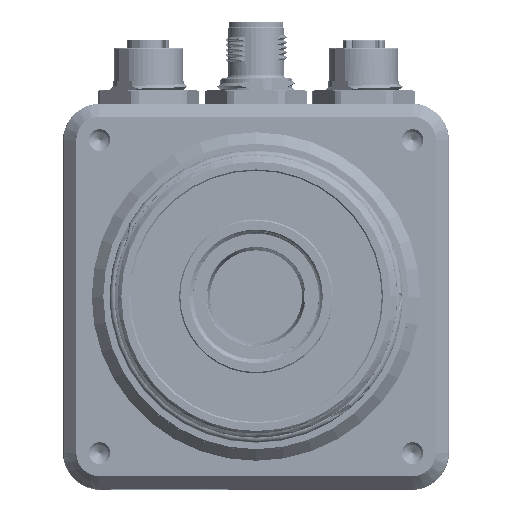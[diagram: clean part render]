
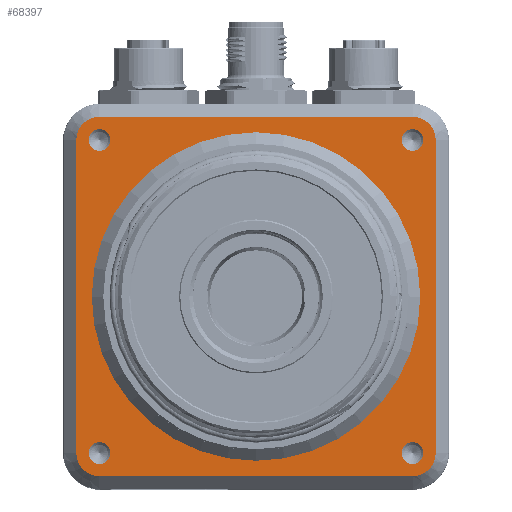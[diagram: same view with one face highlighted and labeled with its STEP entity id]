
A CAD part, top view. The second image highlights one B-rep face of the part: STEP entity #68397.
In plain terms, the highlighted planar face has unit normal (0, 0, 1).
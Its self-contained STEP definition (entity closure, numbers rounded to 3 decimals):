
#13517=CARTESIAN_POINT('',(-30.5,-30.5,27.));
#13518=DIRECTION('',(0.,0.,1.));
#13519=DIRECTION('',(-1.,0.,0.));
#13520=AXIS2_PLACEMENT_3D('',#13517,#13518,#13519);
#13522=CARTESIAN_POINT('',(-30.5,30.5,27.));
#13523=DIRECTION('',(0.,0.,1.));
#13524=DIRECTION('',(0.,1.,0.));
#13525=AXIS2_PLACEMENT_3D('',#13522,#13523,#13524);
#13527=DIRECTION('',(-1.,0.,0.));
#13528=VECTOR('',#13527,61.);
#13529=CARTESIAN_POINT('',(30.5,35.,27.));
#13530=LINE('',#13529,#13528);
#13531=CARTESIAN_POINT('',(30.5,30.5,27.));
#13532=DIRECTION('',(0.,0.,1.));
#13533=DIRECTION('',(1.,0.,0.));
#13534=AXIS2_PLACEMENT_3D('',#13531,#13532,#13533);
#13536=DIRECTION('',(0.,1.,0.));
#13537=VECTOR('',#13536,61.);
#13538=CARTESIAN_POINT('',(35.,-30.5,27.));
#13539=LINE('',#13538,#13537);
#13540=CARTESIAN_POINT('',(30.5,-30.5,27.));
#13541=DIRECTION('',(0.,0.,1.));
#13542=DIRECTION('',(0.,-1.,0.));
#13543=AXIS2_PLACEMENT_3D('',#13540,#13541,#13542);
#13545=CARTESIAN_POINT('',(-30.5,30.5,27.));
#13546=DIRECTION('',(0.,0.,-1.));
#13547=DIRECTION('',(-1.,0.,0.));
#13548=AXIS2_PLACEMENT_3D('',#13545,#13546,#13547);
#13550=CARTESIAN_POINT('',(-30.5,30.5,27.));
#13551=DIRECTION('',(0.,0.,-1.));
#13552=DIRECTION('',(1.,0.,0.));
#13553=AXIS2_PLACEMENT_3D('',#13550,#13551,#13552);
#13555=CARTESIAN_POINT('',(30.5,30.5,27.));
#13556=DIRECTION('',(0.,0.,-1.));
#13557=DIRECTION('',(-1.,0.,0.));
#13558=AXIS2_PLACEMENT_3D('',#13555,#13556,#13557);
#13560=CARTESIAN_POINT('',(30.5,30.5,27.));
#13561=DIRECTION('',(0.,0.,-1.));
#13562=DIRECTION('',(1.,0.,0.));
#13563=AXIS2_PLACEMENT_3D('',#13560,#13561,#13562);
#13565=CARTESIAN_POINT('',(-30.5,-30.5,27.));
#13566=DIRECTION('',(0.,0.,-1.));
#13567=DIRECTION('',(-1.,0.,0.));
#13568=AXIS2_PLACEMENT_3D('',#13565,#13566,#13567);
#13570=CARTESIAN_POINT('',(-30.5,-30.5,27.));
#13571=DIRECTION('',(0.,0.,-1.));
#13572=DIRECTION('',(1.,0.,0.));
#13573=AXIS2_PLACEMENT_3D('',#13570,#13571,#13572);
#13575=CARTESIAN_POINT('',(30.5,-30.5,27.));
#13576=DIRECTION('',(0.,0.,-1.));
#13577=DIRECTION('',(-1.,0.,0.));
#13578=AXIS2_PLACEMENT_3D('',#13575,#13576,#13577);
#13580=CARTESIAN_POINT('',(30.5,-30.5,27.));
#13581=DIRECTION('',(0.,0.,-1.));
#13582=DIRECTION('',(1.,0.,0.));
#13583=AXIS2_PLACEMENT_3D('',#13580,#13581,#13582);
#13585=CARTESIAN_POINT('',(0.,0.,27.));
#13586=DIRECTION('',(0.,0.,-1.));
#13587=DIRECTION('',(-1.,0.,0.));
#13588=AXIS2_PLACEMENT_3D('',#13585,#13586,#13587);
#13590=CARTESIAN_POINT('',(0.,0.,27.));
#13591=DIRECTION('',(0.,0.,-1.));
#13592=DIRECTION('',(1.,0.,0.));
#13593=AXIS2_PLACEMENT_3D('',#13590,#13591,#13592);
#13604=DIRECTION('',(0.,1.,0.));
#13605=VECTOR('',#13604,61.);
#13606=CARTESIAN_POINT('',(-35.,-30.5,27.));
#13607=LINE('',#13606,#13605);
#13620=DIRECTION('',(-1.,0.,0.));
#13621=VECTOR('',#13620,61.);
#13622=CARTESIAN_POINT('',(30.5,-35.,27.));
#13623=LINE('',#13622,#13621);
#41373=CARTESIAN_POINT('',(30.5,-35.,27.));
#41375=VERTEX_POINT('',#41373);
#41380=CARTESIAN_POINT('',(35.,-30.5,27.));
#41381=CARTESIAN_POINT('',(35.,30.5,27.));
#41382=VERTEX_POINT('',#41380);
#41383=VERTEX_POINT('',#41381);
#41452=CARTESIAN_POINT('',(-28.375,-30.5,27.));
#41453=CARTESIAN_POINT('',(-32.625,-30.5,27.));
#41454=VERTEX_POINT('',#41452);
#41455=VERTEX_POINT('',#41453);
#41508=CARTESIAN_POINT('',(-35.,-30.5,27.));
#41509=CARTESIAN_POINT('',(-35.,30.5,27.));
#41510=VERTEX_POINT('',#41508);
#41511=VERTEX_POINT('',#41509);
#41583=CARTESIAN_POINT('',(32.625,30.5,27.));
#41585=VERTEX_POINT('',#41583);
#41722=CARTESIAN_POINT('',(28.375,-30.5,27.));
#41723=CARTESIAN_POINT('',(32.625,-30.5,27.));
#41724=VERTEX_POINT('',#41722);
#41725=VERTEX_POINT('',#41723);
#41828=CARTESIAN_POINT('',(-30.5,-35.,27.));
#41830=VERTEX_POINT('',#41828);
#41886=CARTESIAN_POINT('',(-30.5,35.,27.));
#41887=VERTEX_POINT('',#41886);
#42013=CARTESIAN_POINT('',(32.,0.,27.));
#42014=VERTEX_POINT('',#42013);
#42058=CARTESIAN_POINT('',(-32.625,30.5,27.));
#42059=VERTEX_POINT('',#42058);
#42070=CARTESIAN_POINT('',(30.5,35.,27.));
#42071=VERTEX_POINT('',#42070);
#42094=CARTESIAN_POINT('',(-28.375,30.5,27.));
#42095=VERTEX_POINT('',#42094);
#42114=CARTESIAN_POINT('',(28.375,30.5,27.));
#42115=VERTEX_POINT('',#42114);
#42131=CARTESIAN_POINT('',(-32.,0.,27.));
#42132=VERTEX_POINT('',#42131);
#68349=CARTESIAN_POINT('',(30.5,30.5,27.));
#68350=DIRECTION('',(0.,0.,1.));
#68351=DIRECTION('',(0.707,-0.707,0.));
#68352=AXIS2_PLACEMENT_3D('',#68349,#68350,#68351);
#68353=PLANE('',#68352);
#68355=ORIENTED_EDGE('',*,*,#68354,.F.);
#68357=ORIENTED_EDGE('',*,*,#68356,.T.);
#68358=ORIENTED_EDGE('',*,*,#61078,.F.);
#68359=ORIENTED_EDGE('',*,*,#61093,.F.);
#68360=ORIENTED_EDGE('',*,*,#61110,.F.);
#68361=ORIENTED_EDGE('',*,*,#68344,.F.);
#68362=ORIENTED_EDGE('',*,*,#68331,.F.);
#68364=ORIENTED_EDGE('',*,*,#68363,.T.);
#68365=EDGE_LOOP('',(#68355,#68357,#68358,#68359,#68360,#68361,#68362,#68364));
#68366=FACE_OUTER_BOUND('',#68365,.F.);
#68368=ORIENTED_EDGE('',*,*,#68367,.F.);
#68370=ORIENTED_EDGE('',*,*,#68369,.F.);
#68371=EDGE_LOOP('',(#68368,#68370));
#68372=FACE_BOUND('',#68371,.F.);
#68374=ORIENTED_EDGE('',*,*,#68373,.F.);
#68376=ORIENTED_EDGE('',*,*,#68375,.F.);
#68377=EDGE_LOOP('',(#68374,#68376));
#68378=FACE_BOUND('',#68377,.F.);
#68380=ORIENTED_EDGE('',*,*,#68379,.F.);
#68382=ORIENTED_EDGE('',*,*,#68381,.F.);
#68383=EDGE_LOOP('',(#68380,#68382));
#68384=FACE_BOUND('',#68383,.F.);
#68386=ORIENTED_EDGE('',*,*,#68385,.F.);
#68388=ORIENTED_EDGE('',*,*,#68387,.F.);
#68389=EDGE_LOOP('',(#68386,#68388));
#68390=FACE_BOUND('',#68389,.F.);
#68392=ORIENTED_EDGE('',*,*,#68391,.F.);
#68394=ORIENTED_EDGE('',*,*,#68393,.F.);
#68395=EDGE_LOOP('',(#68392,#68394));
#68396=FACE_BOUND('',#68395,.F.);
#68397=ADVANCED_FACE('',(#68366,#68372,#68378,#68384,#68390,#68396),#68353,.T.);
#13521=CIRCLE('',#13520,4.5);
#13526=CIRCLE('',#13525,4.5);
#13535=CIRCLE('',#13534,4.5);
#13544=CIRCLE('',#13543,4.5);
#13549=CIRCLE('',#13548,2.125);
#13554=CIRCLE('',#13553,2.125);
#13559=CIRCLE('',#13558,2.125);
#13564=CIRCLE('',#13563,2.125);
#13569=CIRCLE('',#13568,2.125);
#13574=CIRCLE('',#13573,2.125);
#13579=CIRCLE('',#13578,2.125);
#13584=CIRCLE('',#13583,2.125);
#13589=CIRCLE('',#13588,32.);
#13594=CIRCLE('',#13593,32.);
#61078=EDGE_CURVE('',#41887,#41511,#13526,.T.);
#61093=EDGE_CURVE('',#42071,#41887,#13530,.T.);
#61110=EDGE_CURVE('',#41383,#42071,#13535,.T.);
#68331=EDGE_CURVE('',#41375,#41382,#13544,.T.);
#68344=EDGE_CURVE('',#41382,#41383,#13539,.T.);
#68354=EDGE_CURVE('',#41510,#41830,#13521,.T.);
#68356=EDGE_CURVE('',#41510,#41511,#13607,.T.);
#68363=EDGE_CURVE('',#41375,#41830,#13623,.T.);
#68367=EDGE_CURVE('',#42059,#42095,#13549,.T.);
#68369=EDGE_CURVE('',#42095,#42059,#13554,.T.);
#68373=EDGE_CURVE('',#42115,#41585,#13559,.T.);
#68375=EDGE_CURVE('',#41585,#42115,#13564,.T.);
#68379=EDGE_CURVE('',#41455,#41454,#13569,.T.);
#68381=EDGE_CURVE('',#41454,#41455,#13574,.T.);
#68385=EDGE_CURVE('',#41724,#41725,#13579,.T.);
#68387=EDGE_CURVE('',#41725,#41724,#13584,.T.);
#68391=EDGE_CURVE('',#42132,#42014,#13589,.T.);
#68393=EDGE_CURVE('',#42014,#42132,#13594,.T.);
